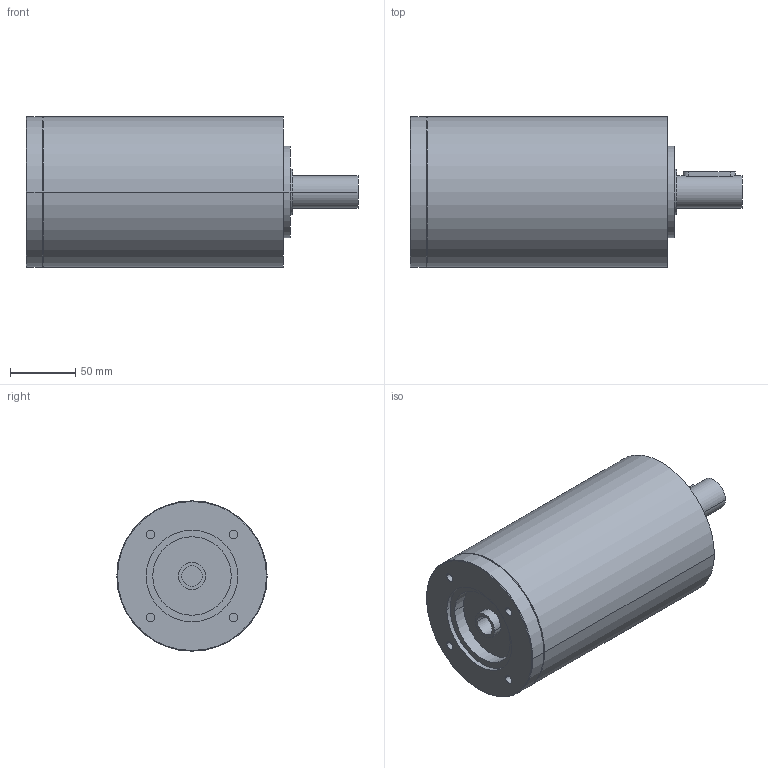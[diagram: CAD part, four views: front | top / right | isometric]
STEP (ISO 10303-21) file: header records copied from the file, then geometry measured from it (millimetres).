
FILE_DESCRIPTION(('CoCreate Modeling STEP Export'),'2;1');
FILE_NAME('GPR125_ig-48-64-80-100-140-196-245-343_25_B14_15.87_P17.stp','2014-08-26T14:21:12',(''),(''),'CoCreate Modeling STEP processor for AP214 (Solid Model)','CoCreate Modeling 16.00C 25-Feb-2009 (C) Parametric Technology GmbH','');
FILE_SCHEMA(('AUTOMOTIVE_DESIGN { 1 0 10303 214 1 1 1 1 }'));
Length unit declared in the file: millimetre
Products named in the file (2): GPR125_ig-48-64-80-100-140-196-245-343_25_B14_15.87_P17
Assembly tree (1 placements, depth 2):
  GPR125_ig-48-64-80-100-140-196-245-343_25_B14_15.87_P17
    GPR125_ig-48-64-80-100-140-196-245-343_25_B14_15.87_P17
Bounding box: 254 x 115 x 115 mm (x, y, z)
Volume: 2040679.3 mm3; surface area: 106163 mm2
Topology: 1 solids, 1 shells, 67 faces, 164 edges, 114 vertices
Faces by surface type: cylinder 38, plane 21, cone 8
Entity records: 1690 total; most frequent: ORIENTED_EDGE 324, CARTESIAN_POINT 318, DIRECTION 220, EDGE_CURVE 162, VERTEX_POINT 114, AXIS2_PLACEMENT_3D 84, EDGE_LOOP 84, FACE_OUTER_BOUND 67
